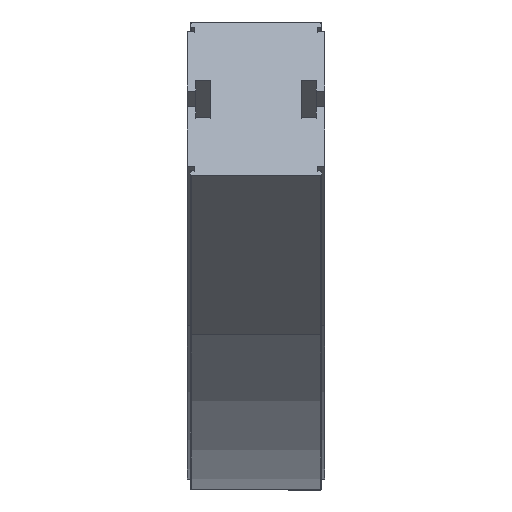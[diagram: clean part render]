
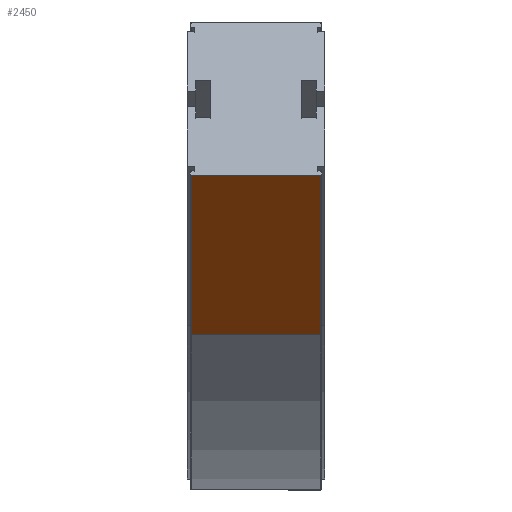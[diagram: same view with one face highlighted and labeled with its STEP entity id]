
A CAD part, top view. The second image highlights one B-rep face of the part: STEP entity #2450.
In plain terms, the highlighted planar face has unit normal (0, -0.866, 0.5).
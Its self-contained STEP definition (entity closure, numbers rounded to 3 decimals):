
#96 = VERTEX_POINT ( 'NONE', #3115 ) ;
#141 = CARTESIAN_POINT ( 'NONE',  ( -30.65, 30.614, 421. ) ) ;
#212 = PLANE ( 'NONE',  #1230 ) ;
#323 = DIRECTION ( 'NONE',  ( 0., 0.5, 0.866 ) ) ;
#462 = CARTESIAN_POINT ( 'NONE',  ( 30.65, 30.614, 421. ) ) ;
#576 = VECTOR ( 'NONE', #323, 1000. ) ;
#584 = DIRECTION ( 'NONE',  ( 0., 0.5, 0.866 ) ) ;
#685 = LINE ( 'NONE', #2292, #1338 ) ;
#689 = LINE ( 'NONE', #2033, #1263 ) ;
#778 = DIRECTION ( 'NONE',  ( -1., 0., 0. ) ) ;
#877 = DIRECTION ( 'NONE',  ( 0., 0.5, 0.866 ) ) ;
#1026 = VERTEX_POINT ( 'NONE', #462 ) ;
#1135 = VECTOR ( 'NONE', #778, 1000. ) ;
#1137 = CARTESIAN_POINT ( 'NONE',  ( -30.65, 30.614, 421. ) ) ;
#1230 = AXIS2_PLACEMENT_3D ( 'NONE', #141, #1857, #877 ) ;
#1263 = VECTOR ( 'NONE', #2540, 1000. ) ;
#1330 = VERTEX_POINT ( 'NONE', #1137 ) ;
#1338 = VECTOR ( 'NONE', #584, 1000. ) ;
#1420 = LINE ( 'NONE', #2484, #1135 ) ;
#1500 = ORIENTED_EDGE ( 'NONE', *, *, #2343, .T. ) ;
#1549 = EDGE_LOOP ( 'NONE', ( #1568, #1500, #1805, #2744 ) ) ;
#1568 = ORIENTED_EDGE ( 'NONE', *, *, #1630, .F. ) ;
#1630 = EDGE_CURVE ( 'NONE', #1026, #1330, #689, .T. ) ;
#1777 = CARTESIAN_POINT ( 'NONE',  ( -30.65, 30.614, 421. ) ) ;
#1805 = ORIENTED_EDGE ( 'NONE', *, *, #1864, .T. ) ;
#1857 = DIRECTION ( 'NONE',  ( 0., 0.866, -0.5 ) ) ;
#1864 = EDGE_CURVE ( 'NONE', #2215, #96, #1420, .T. ) ;
#2033 = CARTESIAN_POINT ( 'NONE',  ( -30.65, 30.614, 421. ) ) ;
#2215 = VERTEX_POINT ( 'NONE', #3083 ) ;
#2274 = EDGE_CURVE ( 'NONE', #1330, #96, #2739, .T. ) ;
#2292 = CARTESIAN_POINT ( 'NONE',  ( 30.65, 30.614, 421. ) ) ;
#2343 = EDGE_CURVE ( 'NONE', #1026, #2215, #685, .T. ) ;
#2450 = ADVANCED_FACE ( 'NONE', ( #2661 ), #212, .F. ) ;
#2484 = CARTESIAN_POINT ( 'NONE',  ( -30.65, 105.614, 550.904 ) ) ;
#2540 = DIRECTION ( 'NONE',  ( -1., 0., 0. ) ) ;
#2661 = FACE_OUTER_BOUND ( 'NONE', #1549, .T. ) ;
#2739 = LINE ( 'NONE', #1777, #576 ) ;
#2744 = ORIENTED_EDGE ( 'NONE', *, *, #2274, .F. ) ;
#3083 = CARTESIAN_POINT ( 'NONE',  ( 30.65, 105.614, 550.904 ) ) ;
#3115 = CARTESIAN_POINT ( 'NONE',  ( -30.65, 105.614, 550.904 ) ) ;
